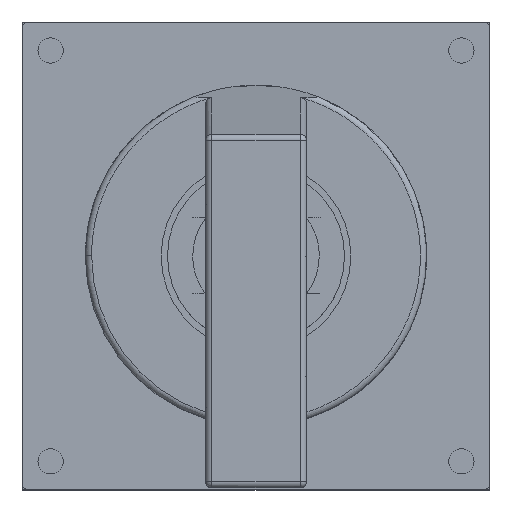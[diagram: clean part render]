
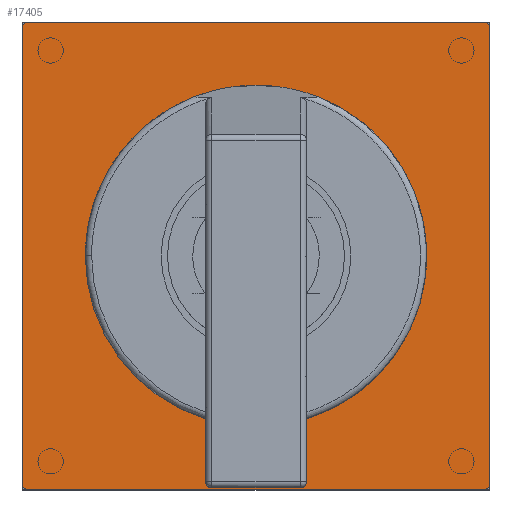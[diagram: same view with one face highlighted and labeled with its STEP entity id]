
A CAD part, top view. The second image highlights one B-rep face of the part: STEP entity #17405.
In plain terms, the highlighted planar face has unit normal (0, 0, 1).
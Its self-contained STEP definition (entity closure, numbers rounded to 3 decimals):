
#340 = DIRECTION ( 'NONE',  ( 0., -1., 0. ) ) ;
#388 = ORIENTED_EDGE ( 'NONE', *, *, #13659, .T. ) ;
#567 = EDGE_CURVE ( 'NONE', #16935, #11141, #12909, .T. ) ;
#627 = LINE ( 'NONE', #16928, #8039 ) ;
#653 = AXIS2_PLACEMENT_3D ( 'NONE', #7039, #13910, #15081 ) ;
#741 = ORIENTED_EDGE ( 'NONE', *, *, #7123, .T. ) ;
#1084 = CARTESIAN_POINT ( 'NONE',  ( 34.598, 21.411, 360.373 ) ) ;
#1323 = ORIENTED_EDGE ( 'NONE', *, *, #13469, .T. ) ;
#1402 = CARTESIAN_POINT ( 'NONE',  ( -8.402, 87.411, 360.373 ) ) ;
#1488 = ORIENTED_EDGE ( 'NONE', *, *, #6683, .T. ) ;
#1747 = VERTEX_POINT ( 'NONE', #7841 ) ;
#1786 = CARTESIAN_POINT ( 'NONE',  ( 105.391, 21.411, 360.373 ) ) ;
#2006 = DIRECTION ( 'NONE',  ( -1., 0., 0. ) ) ;
#2111 = CARTESIAN_POINT ( 'NONE',  ( 35.598, 87.412, 360.373 ) ) ;
#2274 = ORIENTED_EDGE ( 'NONE', *, *, #7330, .T. ) ;
#2384 = DIRECTION ( 'NONE',  ( 0., 0., 1. ) ) ;
#2473 = EDGE_LOOP ( 'NONE', ( #16511, #13163, #2274, #1323, #15212, #11744, #7594, #5012 ) ) ;
#2601 = CARTESIAN_POINT ( 'NONE',  ( 27.598, 50.411, 360.373 ) ) ;
#2690 = CARTESIAN_POINT ( 'NONE',  ( 27.598, 50.411, 360.373 ) ) ;
#2826 = VERTEX_POINT ( 'NONE', #20647 ) ;
#2955 = CIRCLE ( 'NONE', #5726, 1. ) ;
#3194 = CARTESIAN_POINT ( 'NONE',  ( 19.598, 22.431, 360.373 ) ) ;
#3409 = PLANE ( 'NONE',  #21150 ) ;
#3419 = CARTESIAN_POINT ( 'NONE',  ( 0.598, 50.411, 360.373 ) ) ;
#3888 = VERTEX_POINT ( 'NONE', #17527 ) ;
#4043 = VECTOR ( 'NONE', #2006, 1000. ) ;
#4373 = VERTEX_POINT ( 'NONE', #3419 ) ;
#4468 = CARTESIAN_POINT ( 'NONE',  ( 19.598, 22.431, 360.373 ) ) ;
#4547 = CIRCLE ( 'NONE', #12078, 27. ) ;
#5012 = ORIENTED_EDGE ( 'NONE', *, *, #10689, .F. ) ;
#5013 = CIRCLE ( 'NONE', #16651, 1. ) ;
#5025 = VERTEX_POINT ( 'NONE', #15780 ) ;
#5135 = VERTEX_POINT ( 'NONE', #13854 ) ;
#5259 = EDGE_CURVE ( 'NONE', #21016, #5025, #13951, .T. ) ;
#5289 = CARTESIAN_POINT ( 'NONE',  ( 64.598, 14.411, 360.373 ) ) ;
#5514 = DIRECTION ( 'NONE',  ( 0., 0., 1. ) ) ;
#5541 = CARTESIAN_POINT ( 'NONE',  ( 19.598, 24.623, 360.373 ) ) ;
#5709 = EDGE_CURVE ( 'NONE', #5135, #13983, #7730, .T. ) ;
#5726 = AXIS2_PLACEMENT_3D ( 'NONE', #10817, #9102, #14243 ) ;
#5915 = LINE ( 'NONE', #18685, #7813 ) ;
#5920 = CARTESIAN_POINT ( 'NONE',  ( -9.402, 13.411, 360.373 ) ) ;
#6127 = ORIENTED_EDGE ( 'NONE', *, *, #14634, .T. ) ;
#6210 = DIRECTION ( 'NONE',  ( -1., 0., 0. ) ) ;
#6300 = CARTESIAN_POINT ( 'NONE',  ( 35.598, 21.833, 360.373 ) ) ;
#6396 = CARTESIAN_POINT ( 'NONE',  ( 35.184, 21.411, 360.373 ) ) ;
#6660 = DIRECTION ( 'NONE',  ( -1., 0., 0. ) ) ;
#6683 = EDGE_CURVE ( 'NONE', #18510, #12582, #5013, .T. ) ;
#7039 = CARTESIAN_POINT ( 'NONE',  ( 27.598, 50.411, 360.373 ) ) ;
#7123 = EDGE_CURVE ( 'NONE', #1747, #12746, #2955, .T. ) ;
#7330 = EDGE_CURVE ( 'NONE', #5135, #3888, #13584, .T. ) ;
#7594 = ORIENTED_EDGE ( 'NONE', *, *, #567, .F. ) ;
#7730 = CIRCLE ( 'NONE', #20783, 27. ) ;
#7813 = VECTOR ( 'NONE', #12453, 1000. ) ;
#7841 = CARTESIAN_POINT ( 'NONE',  ( 63.598, 13.411, 360.373 ) ) ;
#8039 = VECTOR ( 'NONE', #8773, 1000. ) ;
#8064 = DIRECTION ( 'NONE',  ( 0., 0., 1. ) ) ;
#8195 =( BOUNDED_CURVE ( )  B_SPLINE_CURVE ( 3, ( #16284, #19479, #9538, #3194 ),
 .UNSPECIFIED., .F., .T. ) 
 B_SPLINE_CURVE_WITH_KNOTS ( ( 4, 4 ),
 ( 0., 1.571 ),
 .UNSPECIFIED. ) 
 CURVE ( )  GEOMETRIC_REPRESENTATION_ITEM ( )  RATIONAL_B_SPLINE_CURVE ( ( 1., 0.805, 0.805, 1. ) ) 
 REPRESENTATION_ITEM ( '' )  );
#8275 = CARTESIAN_POINT ( 'NONE',  ( 63.598, 86.411, 360.373 ) ) ;
#8343 = DIRECTION ( 'NONE',  ( 0., -1., 0. ) ) ;
#8367 = LINE ( 'NONE', #8481, #9493 ) ;
#8455 = CARTESIAN_POINT ( 'NONE',  ( -9.402, 13.411, 360.373 ) ) ;
#8481 = CARTESIAN_POINT ( 'NONE',  ( -9.402, 13.411, 360.373 ) ) ;
#8773 = DIRECTION ( 'NONE',  ( 0., 1., 0. ) ) ;
#9027 = DIRECTION ( 'NONE',  ( -1., 0., 0. ) ) ;
#9102 = DIRECTION ( 'NONE',  ( 0., 0., 1. ) ) ;
#9139 = DIRECTION ( 'NONE',  ( -1., 0., 0. ) ) ;
#9333 = CIRCLE ( 'NONE', #11666, 1. ) ;
#9493 = VECTOR ( 'NONE', #340, 1000. ) ;
#9523 = CARTESIAN_POINT ( 'NONE',  ( 35.598, 22.431, 360.373 ) ) ;
#9538 = CARTESIAN_POINT ( 'NONE',  ( 19.598, 21.833, 360.373 ) ) ;
#10373 = DIRECTION ( 'NONE',  ( 0., -1., 0. ) ) ;
#10452 = EDGE_CURVE ( 'NONE', #2826, #14305, #9333, .T. ) ;
#10689 = EDGE_CURVE ( 'NONE', #4373, #16935, #4547, .T. ) ;
#10817 = CARTESIAN_POINT ( 'NONE',  ( 63.598, 14.411, 360.373 ) ) ;
#10910 = ORIENTED_EDGE ( 'NONE', *, *, #10452, .T. ) ;
#10994 = CARTESIAN_POINT ( 'NONE',  ( 19.598, 87.412, 360.373 ) ) ;
#11036 = ORIENTED_EDGE ( 'NONE', *, *, #17066, .T. ) ;
#11141 = VERTEX_POINT ( 'NONE', #4468 ) ;
#11277 = CARTESIAN_POINT ( 'NONE',  ( 20.598, 21.411, 360.373 ) ) ;
#11508 = ORIENTED_EDGE ( 'NONE', *, *, #5259, .T. ) ;
#11666 = AXIS2_PLACEMENT_3D ( 'NONE', #8275, #18033, #6660 ) ;
#11744 = ORIENTED_EDGE ( 'NONE', *, *, #18454, .T. ) ;
#11968 = VECTOR ( 'NONE', #15837, 1000. ) ;
#12078 = AXIS2_PLACEMENT_3D ( 'NONE', #2601, #5514, #9139 ) ;
#12245 = VECTOR ( 'NONE', #10373, 1000. ) ;
#12453 = DIRECTION ( 'NONE',  ( -1., 0., 0. ) ) ;
#12582 = VERTEX_POINT ( 'NONE', #20314 ) ;
#12684 = VERTEX_POINT ( 'NONE', #11277 ) ;
#12746 = VERTEX_POINT ( 'NONE', #5289 ) ;
#12909 = LINE ( 'NONE', #10994, #11968 ) ;
#13163 = ORIENTED_EDGE ( 'NONE', *, *, #5709, .F. ) ;
#13469 = EDGE_CURVE ( 'NONE', #3888, #14721, #19167, .T. ) ;
#13584 = LINE ( 'NONE', #2111, #12245 ) ;
#13659 = EDGE_CURVE ( 'NONE', #12746, #2826, #627, .T. ) ;
#13854 = CARTESIAN_POINT ( 'NONE',  ( 35.598, 24.623, 360.373 ) ) ;
#13910 = DIRECTION ( 'NONE',  ( 0., 0., 1. ) ) ;
#13951 = CIRCLE ( 'NONE', #18018, 1. ) ;
#13971 = DIRECTION ( 'NONE',  ( 1., 0., 0. ) ) ;
#13983 = VERTEX_POINT ( 'NONE', #19375 ) ;
#14124 = CARTESIAN_POINT ( 'NONE',  ( 63.598, 87.411, 360.373 ) ) ;
#14243 = DIRECTION ( 'NONE',  ( -1., 0., 0. ) ) ;
#14305 = VERTEX_POINT ( 'NONE', #14124 ) ;
#14388 = EDGE_LOOP ( 'NONE', ( #388, #10910, #21084, #1488, #11036, #11508, #6127, #741 ) ) ;
#14512 = DIRECTION ( 'NONE',  ( -1., 0., 0. ) ) ;
#14634 = EDGE_CURVE ( 'NONE', #5025, #1747, #15575, .T. ) ;
#14666 = FACE_BOUND ( 'NONE', #2473, .T. ) ;
#14721 = VERTEX_POINT ( 'NONE', #19086 ) ;
#14996 = DIRECTION ( 'NONE',  ( 0., 0., -1. ) ) ;
#15081 = DIRECTION ( 'NONE',  ( -1., 0., 0. ) ) ;
#15212 = ORIENTED_EDGE ( 'NONE', *, *, #15295, .T. ) ;
#15295 = EDGE_CURVE ( 'NONE', #14721, #12684, #16369, .T. ) ;
#15575 = LINE ( 'NONE', #5920, #17358 ) ;
#15780 = CARTESIAN_POINT ( 'NONE',  ( -8.402, 13.411, 360.373 ) ) ;
#15837 = DIRECTION ( 'NONE',  ( 0., -1., 0. ) ) ;
#16128 = CARTESIAN_POINT ( 'NONE',  ( -8.402, 86.411, 360.373 ) ) ;
#16284 = CARTESIAN_POINT ( 'NONE',  ( 20.598, 21.411, 360.373 ) ) ;
#16369 = LINE ( 'NONE', #1786, #4043 ) ;
#16511 = ORIENTED_EDGE ( 'NONE', *, *, #17882, .F. ) ;
#16651 = AXIS2_PLACEMENT_3D ( 'NONE', #16128, #8064, #14512 ) ;
#16928 = CARTESIAN_POINT ( 'NONE',  ( 64.598, 13.411, 360.373 ) ) ;
#16935 = VERTEX_POINT ( 'NONE', #5541 ) ;
#17066 = EDGE_CURVE ( 'NONE', #12582, #21016, #8367, .T. ) ;
#17236 = EDGE_CURVE ( 'NONE', #14305, #18510, #5915, .T. ) ;
#17345 = CARTESIAN_POINT ( 'NONE',  ( -9.402, 14.411, 360.373 ) ) ;
#17358 = VECTOR ( 'NONE', #13971, 1000. ) ;
#17405 = ADVANCED_FACE ( 'NONE', ( #14666, #18104 ), #3409, .F. ) ;
#17527 = CARTESIAN_POINT ( 'NONE',  ( 35.598, 22.431, 360.373 ) ) ;
#17882 = EDGE_CURVE ( 'NONE', #13983, #4373, #19113, .T. ) ;
#18018 = AXIS2_PLACEMENT_3D ( 'NONE', #21097, #20794, #6210 ) ;
#18033 = DIRECTION ( 'NONE',  ( 0., 0., 1. ) ) ;
#18104 = FACE_OUTER_BOUND ( 'NONE', #14388, .T. ) ;
#18454 = EDGE_CURVE ( 'NONE', #12684, #11141, #8195, .T. ) ;
#18510 = VERTEX_POINT ( 'NONE', #1402 ) ;
#18685 = CARTESIAN_POINT ( 'NONE',  ( -9.402, 87.411, 360.373 ) ) ;
#19086 = CARTESIAN_POINT ( 'NONE',  ( 34.598, 21.411, 360.373 ) ) ;
#19113 = CIRCLE ( 'NONE', #653, 27. ) ;
#19167 =( BOUNDED_CURVE ( )  B_SPLINE_CURVE ( 3, ( #9523, #6300, #6396, #1084 ),
 .UNSPECIFIED., .F., .T. ) 
 B_SPLINE_CURVE_WITH_KNOTS ( ( 4, 4 ),
 ( 1.571, 3.142 ),
 .UNSPECIFIED. ) 
 CURVE ( )  GEOMETRIC_REPRESENTATION_ITEM ( )  RATIONAL_B_SPLINE_CURVE ( ( 1., 0.805, 0.805, 1. ) ) 
 REPRESENTATION_ITEM ( '' )  );
#19375 = CARTESIAN_POINT ( 'NONE',  ( 27.598, 77.411, 360.373 ) ) ;
#19479 = CARTESIAN_POINT ( 'NONE',  ( 20.013, 21.411, 360.373 ) ) ;
#20314 = CARTESIAN_POINT ( 'NONE',  ( -9.402, 86.411, 360.373 ) ) ;
#20647 = CARTESIAN_POINT ( 'NONE',  ( 64.598, 86.411, 360.373 ) ) ;
#20783 = AXIS2_PLACEMENT_3D ( 'NONE', #2690, #2384, #9027 ) ;
#20794 = DIRECTION ( 'NONE',  ( 0., 0., 1. ) ) ;
#21016 = VERTEX_POINT ( 'NONE', #17345 ) ;
#21084 = ORIENTED_EDGE ( 'NONE', *, *, #17236, .T. ) ;
#21097 = CARTESIAN_POINT ( 'NONE',  ( -8.402, 14.411, 360.373 ) ) ;
#21150 = AXIS2_PLACEMENT_3D ( 'NONE', #8455, #14996, #8343 ) ;
